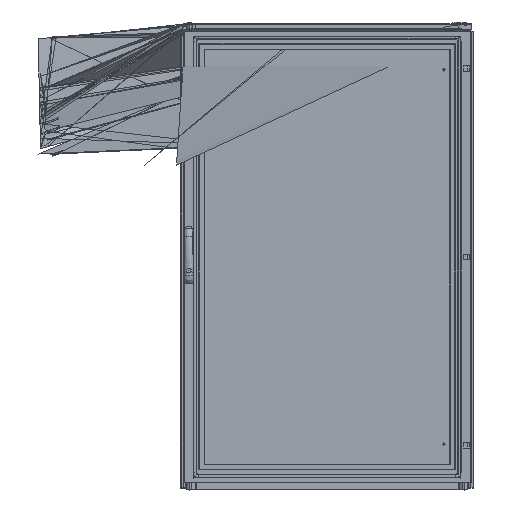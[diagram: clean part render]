
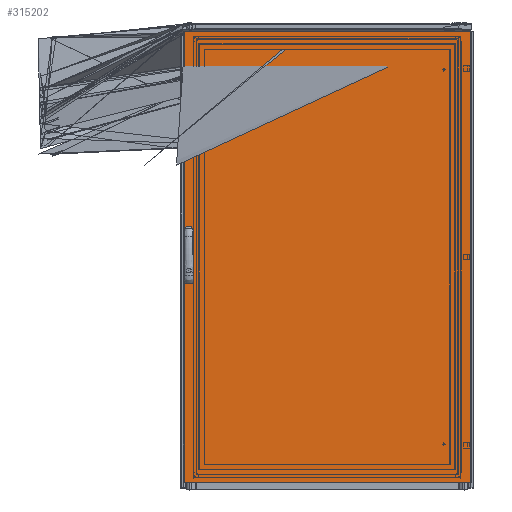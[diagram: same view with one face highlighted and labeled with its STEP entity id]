
A CAD part, top view. The second image highlights one B-rep face of the part: STEP entity #315202.
In plain terms, the highlighted planar face has unit normal (0, 0, 1).
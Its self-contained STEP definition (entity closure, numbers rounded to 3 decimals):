
#196 = EDGE_CURVE ( 'NONE', #258599, #37777, #38182, .T. ) ;
#7736 = AXIS2_PLACEMENT_3D ( 'NONE', #39618, #62764, #269206 ) ;
#10824 = CARTESIAN_POINT ( 'NONE',  ( 19.2, 860.25, 19. ) ) ;
#14407 = ORIENTED_EDGE ( 'NONE', *, *, #57954, .F. ) ;
#16805 = FACE_BOUND ( 'NONE', #151020, .T. ) ;
#17076 = ORIENTED_EDGE ( 'NONE', *, *, #241010, .F. ) ;
#22637 = ORIENTED_EDGE ( 'NONE', *, *, #316777, .F. ) ;
#25247 = CARTESIAN_POINT ( 'NONE',  ( 28.7, 747.75, 19. ) ) ;
#31698 = CARTESIAN_POINT ( 'NONE',  ( 28.7, 747.75, 19. ) ) ;
#37777 = VERTEX_POINT ( 'NONE', #82276 ) ;
#38001 = CARTESIAN_POINT ( 'NONE',  ( 28.7, 860.25, 19. ) ) ;
#38182 = LINE ( 'NONE', #146664, #229520 ) ;
#39618 = CARTESIAN_POINT ( 'NONE',  ( 19.2, 747.75, 19. ) ) ;
#41611 = CARTESIAN_POINT ( 'NONE',  ( 0., 3., 19. ) ) ;
#51461 = ORIENTED_EDGE ( 'NONE', *, *, #79551, .F. ) ;
#56005 = CARTESIAN_POINT ( 'NONE',  ( 992., 3., 19. ) ) ;
#57954 = EDGE_CURVE ( 'NONE', #160517, #86536, #282292, .T. ) ;
#61622 = EDGE_CURVE ( 'NONE', #207953, #165219, #160802, .T. ) ;
#62764 = DIRECTION ( 'NONE',  ( 0., 0., 1. ) ) ;
#64740 = CARTESIAN_POINT ( 'NONE',  ( 0., 1560., 19. ) ) ;
#69090 = EDGE_LOOP ( 'NONE', ( #283100, #325275, #205517, #207487 ) ) ;
#70882 = AXIS2_PLACEMENT_3D ( 'NONE', #312136, #146346, #85784 ) ;
#73971 = DIRECTION ( 'NONE',  ( 0., 1., 0. ) ) ;
#79551 = EDGE_CURVE ( 'NONE', #245084, #207953, #160810, .T. ) ;
#81935 = DIRECTION ( 'NONE',  ( -1., 0., 0. ) ) ;
#82276 = CARTESIAN_POINT ( 'NONE',  ( 992., 1557., 19. ) ) ;
#85784 = DIRECTION ( 'NONE',  ( 1., 0., 0. ) ) ;
#86536 = VERTEX_POINT ( 'NONE', #228915 ) ;
#87868 = CIRCLE ( 'NONE', #298957, 9.5 ) ;
#89520 = FACE_OUTER_BOUND ( 'NONE', #69090, .T. ) ;
#90636 = VECTOR ( 'NONE', #228546, 1000. ) ;
#91326 = CARTESIAN_POINT ( 'NONE',  ( 9.7, 747.75, 19. ) ) ;
#92167 = ORIENTED_EDGE ( 'NONE', *, *, #242746, .F. ) ;
#97678 = VECTOR ( 'NONE', #184005, 1000. ) ;
#100556 = VECTOR ( 'NONE', #319122, 1000. ) ;
#106916 = VECTOR ( 'NONE', #73971, 1000. ) ;
#109702 = ORIENTED_EDGE ( 'NONE', *, *, #116052, .F. ) ;
#110234 = VERTEX_POINT ( 'NONE', #197406 ) ;
#111557 = DIRECTION ( 'NONE',  ( 1., 0., 0. ) ) ;
#112572 = CIRCLE ( 'NONE', #318262, 9.5 ) ;
#115488 = CARTESIAN_POINT ( 'NONE',  ( 19.2, 699.75, 19. ) ) ;
#116052 = EDGE_CURVE ( 'NONE', #86536, #110234, #112572, .T. ) ;
#118651 = LINE ( 'NONE', #176439, #106916 ) ;
#119449 = VECTOR ( 'NONE', #258054, 1000. ) ;
#122806 = VECTOR ( 'NONE', #279059, 1000. ) ;
#127726 = CARTESIAN_POINT ( 'NONE',  ( 3., 1560., 19. ) ) ;
#141582 = CARTESIAN_POINT ( 'NONE',  ( 3., 1557., 19. ) ) ;
#145604 = DIRECTION ( 'NONE',  ( 0., 0., -1. ) ) ;
#146346 = DIRECTION ( 'NONE',  ( 0., 0., 1. ) ) ;
#146664 = CARTESIAN_POINT ( 'NONE',  ( 992., 1560., 19. ) ) ;
#151020 = EDGE_LOOP ( 'NONE', ( #14407, #17076, #92167, #109702 ) ) ;
#160517 = VERTEX_POINT ( 'NONE', #91326 ) ;
#160802 = CIRCLE ( 'NONE', #70882, 9.5 ) ;
#160810 = LINE ( 'NONE', #188883, #97678 ) ;
#165219 = VERTEX_POINT ( 'NONE', #320452 ) ;
#176439 = CARTESIAN_POINT ( 'NONE',  ( 28.7, 860.25, 19. ) ) ;
#183087 = VERTEX_POINT ( 'NONE', #141582 ) ;
#183869 = LINE ( 'NONE', #127726, #90636 ) ;
#184005 = DIRECTION ( 'NONE',  ( 0., -1., 0. ) ) ;
#188883 = CARTESIAN_POINT ( 'NONE',  ( 9.7, 860.25, 19. ) ) ;
#189450 = ORIENTED_EDGE ( 'NONE', *, *, #276921, .F. ) ;
#190357 = PLANE ( 'NONE',  #224457 ) ;
#191984 = LINE ( 'NONE', #41611, #100556 ) ;
#193606 = FACE_BOUND ( 'NONE', #276720, .T. ) ;
#197406 = CARTESIAN_POINT ( 'NONE',  ( 28.7, 699.75, 19. ) ) ;
#205517 = ORIENTED_EDGE ( 'NONE', *, *, #211451, .T. ) ;
#205821 = VERTEX_POINT ( 'NONE', #38001 ) ;
#207487 = ORIENTED_EDGE ( 'NONE', *, *, #301377, .T. ) ;
#207953 = VERTEX_POINT ( 'NONE', #209216 ) ;
#209216 = CARTESIAN_POINT ( 'NONE',  ( 9.7, 812.25, 19. ) ) ;
#210121 = LINE ( 'NONE', #31698, #119449 ) ;
#211451 = EDGE_CURVE ( 'NONE', #183087, #312799, #183869, .T. ) ;
#224457 = AXIS2_PLACEMENT_3D ( 'NONE', #64740, #145604, #317501 ) ;
#225216 = CARTESIAN_POINT ( 'NONE',  ( 9.7, 860.25, 19. ) ) ;
#228546 = DIRECTION ( 'NONE',  ( 0., -1., 0. ) ) ;
#228915 = CARTESIAN_POINT ( 'NONE',  ( 9.7, 699.75, 19. ) ) ;
#229520 = VECTOR ( 'NONE', #247450, 1000. ) ;
#232339 = LINE ( 'NONE', #308289, #316856 ) ;
#232739 = CARTESIAN_POINT ( 'NONE',  ( 9.7, 747.75, 19. ) ) ;
#241010 = EDGE_CURVE ( 'NONE', #326238, #160517, #308417, .T. ) ;
#242746 = EDGE_CURVE ( 'NONE', #110234, #326238, #210121, .T. ) ;
#245084 = VERTEX_POINT ( 'NONE', #225216 ) ;
#247450 = DIRECTION ( 'NONE',  ( 0., 1., 0. ) ) ;
#257356 = EDGE_CURVE ( 'NONE', #37777, #183087, #232339, .T. ) ;
#258054 = DIRECTION ( 'NONE',  ( 0., 1., 0. ) ) ;
#258599 = VERTEX_POINT ( 'NONE', #56005 ) ;
#264197 = DIRECTION ( 'NONE',  ( 0., 0., 1. ) ) ;
#269206 = DIRECTION ( 'NONE',  ( 1., 0., 0. ) ) ;
#276720 = EDGE_LOOP ( 'NONE', ( #51461, #22637, #189450, #287332 ) ) ;
#276921 = EDGE_CURVE ( 'NONE', #165219, #205821, #118651, .T. ) ;
#279059 = DIRECTION ( 'NONE',  ( 0., -1., 0. ) ) ;
#281857 = DIRECTION ( 'NONE',  ( 0., 0., 1. ) ) ;
#282292 = LINE ( 'NONE', #232739, #122806 ) ;
#283100 = ORIENTED_EDGE ( 'NONE', *, *, #196, .T. ) ;
#287332 = ORIENTED_EDGE ( 'NONE', *, *, #61622, .F. ) ;
#293902 = DIRECTION ( 'NONE',  ( 1., 0., 0. ) ) ;
#298957 = AXIS2_PLACEMENT_3D ( 'NONE', #10824, #281857, #111557 ) ;
#301377 = EDGE_CURVE ( 'NONE', #312799, #258599, #191984, .T. ) ;
#304554 = CARTESIAN_POINT ( 'NONE',  ( 3., 3., 19. ) ) ;
#308289 = CARTESIAN_POINT ( 'NONE',  ( 0., 1557., 19. ) ) ;
#308417 = CIRCLE ( 'NONE', #7736, 9.5 ) ;
#312136 = CARTESIAN_POINT ( 'NONE',  ( 19.2, 812.25, 19. ) ) ;
#312799 = VERTEX_POINT ( 'NONE', #304554 ) ;
#315202 = ADVANCED_FACE ( 'NONE', ( #16805, #193606, #89520 ), #190357, .F. ) ;
#316777 = EDGE_CURVE ( 'NONE', #205821, #245084, #87868, .T. ) ;
#316856 = VECTOR ( 'NONE', #81935, 1000. ) ;
#317501 = DIRECTION ( 'NONE',  ( -1., 0., 0. ) ) ;
#318262 = AXIS2_PLACEMENT_3D ( 'NONE', #115488, #264197, #293902 ) ;
#319122 = DIRECTION ( 'NONE',  ( 1., 0., 0. ) ) ;
#320452 = CARTESIAN_POINT ( 'NONE',  ( 28.7, 812.25, 19. ) ) ;
#325275 = ORIENTED_EDGE ( 'NONE', *, *, #257356, .T. ) ;
#326238 = VERTEX_POINT ( 'NONE', #25247 ) ;
